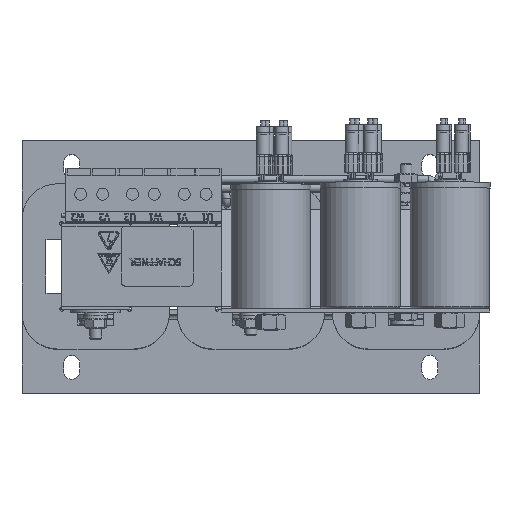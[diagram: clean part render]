
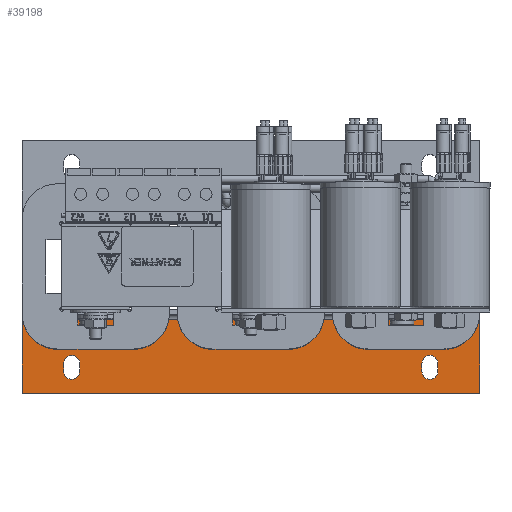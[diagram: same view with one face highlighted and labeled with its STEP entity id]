
A CAD part, top view. The second image highlights one B-rep face of the part: STEP entity #39198.
In plain terms, the highlighted planar face has unit normal (0, 0, 1).
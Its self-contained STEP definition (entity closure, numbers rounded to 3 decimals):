
#1292=LINE('',#58739,#4658);
#1294=LINE('',#58747,#4660);
#1303=LINE('',#58773,#4669);
#1304=LINE('',#58775,#4670);
#1305=LINE('',#58780,#4671);
#1306=LINE('',#58783,#4672);
#1307=LINE('',#58788,#4673);
#1308=LINE('',#58791,#4674);
#4658=VECTOR('',#46807,37.);
#4660=VECTOR('',#46815,37.);
#4669=VECTOR('',#46838,230.);
#4670=VECTOR('',#46841,230.);
#4671=VECTOR('',#46844,4.);
#4672=VECTOR('',#46847,4.);
#4673=VECTOR('',#46850,4.);
#4674=VECTOR('',#46853,4.);
#7903=PLANE('',#41671);
#9093=FACE_BOUND('',#12430,.T.);
#9094=FACE_BOUND('',#12431,.T.);
#10081=FACE_OUTER_BOUND('',#12429,.T.);
#12429=EDGE_LOOP('',(#27549,#27550,#27551,#27552));
#12430=EDGE_LOOP('',(#27553,#27554,#27555,#27556));
#12431=EDGE_LOOP('',(#27557,#27558,#27559,#27560));
#14906=CIRCLE('',#41672,4.);
#14907=CIRCLE('',#41673,4.);
#14908=CIRCLE('',#41674,4.);
#14909=CIRCLE('',#41675,4.);
#16959=VERTEX_POINT('',#58736);
#16960=VERTEX_POINT('',#58738);
#16962=VERTEX_POINT('',#58744);
#16963=VERTEX_POINT('',#58746);
#16974=VERTEX_POINT('',#58776);
#16975=VERTEX_POINT('',#58777);
#16976=VERTEX_POINT('',#58779);
#16977=VERTEX_POINT('',#58781);
#16978=VERTEX_POINT('',#58784);
#16979=VERTEX_POINT('',#58785);
#16980=VERTEX_POINT('',#58787);
#16981=VERTEX_POINT('',#58789);
#21007=EDGE_CURVE('',#16959,#16960,#1292,.T.);
#21011=EDGE_CURVE('',#16963,#16962,#1294,.T.);
#21025=EDGE_CURVE('',#16959,#16963,#1303,.T.);
#21026=EDGE_CURVE('',#16962,#16960,#1304,.T.);
#21027=EDGE_CURVE('',#16974,#16975,#14906,.T.);
#21028=EDGE_CURVE('',#16975,#16976,#1305,.T.);
#21029=EDGE_CURVE('',#16976,#16977,#14907,.T.);
#21030=EDGE_CURVE('',#16977,#16974,#1306,.T.);
#21031=EDGE_CURVE('',#16978,#16979,#14908,.T.);
#21032=EDGE_CURVE('',#16979,#16980,#1307,.T.);
#21033=EDGE_CURVE('',#16980,#16981,#14909,.T.);
#21034=EDGE_CURVE('',#16981,#16978,#1308,.T.);
#27549=ORIENTED_EDGE('',*,*,#21026,.T.);
#27550=ORIENTED_EDGE('',*,*,#21007,.F.);
#27551=ORIENTED_EDGE('',*,*,#21025,.T.);
#27552=ORIENTED_EDGE('',*,*,#21011,.T.);
#27553=ORIENTED_EDGE('',*,*,#21027,.T.);
#27554=ORIENTED_EDGE('',*,*,#21028,.T.);
#27555=ORIENTED_EDGE('',*,*,#21029,.T.);
#27556=ORIENTED_EDGE('',*,*,#21030,.T.);
#27557=ORIENTED_EDGE('',*,*,#21031,.T.);
#27558=ORIENTED_EDGE('',*,*,#21032,.T.);
#27559=ORIENTED_EDGE('',*,*,#21033,.T.);
#27560=ORIENTED_EDGE('',*,*,#21034,.T.);
#39198=ADVANCED_FACE('',(#10081,#9093,#9094),#7903,.T.);
#41671=AXIS2_PLACEMENT_3D('',#58774,#46839,#46840);
#41672=AXIS2_PLACEMENT_3D('',#58778,#46842,#46843);
#41673=AXIS2_PLACEMENT_3D('',#58782,#46845,#46846);
#41674=AXIS2_PLACEMENT_3D('',#58786,#46848,#46849);
#41675=AXIS2_PLACEMENT_3D('',#58790,#46851,#46852);
#46807=DIRECTION('',(0.,1.,0.));
#46815=DIRECTION('',(0.,1.,0.));
#46838=DIRECTION('',(1.,0.,0.));
#46839=DIRECTION('center_axis',(0.,0.,1.));
#46840=DIRECTION('ref_axis',(1.,0.,0.));
#46841=DIRECTION('',(-1.,0.,0.));
#46842=DIRECTION('center_axis',(0.,0.,-1.));
#46843=DIRECTION('ref_axis',(1.,0.,0.));
#46844=DIRECTION('',(0.,-1.,0.));
#46845=DIRECTION('center_axis',(0.,0.,-1.));
#46846=DIRECTION('ref_axis',(-1.,0.,0.));
#46847=DIRECTION('',(0.,1.,0.));
#46848=DIRECTION('center_axis',(0.,0.,-1.));
#46849=DIRECTION('ref_axis',(-1.,0.,0.));
#46850=DIRECTION('',(0.,-1.,0.));
#46851=DIRECTION('center_axis',(0.,0.,-1.));
#46852=DIRECTION('ref_axis',(1.,0.,0.));
#46853=DIRECTION('',(0.,1.,0.));
#58736=CARTESIAN_POINT('',(-45.201,-51.199,-7.5));
#58738=CARTESIAN_POINT('',(-45.201,-14.199,-7.5));
#58739=CARTESIAN_POINT('',(-45.201,-51.199,-7.5));
#58744=CARTESIAN_POINT('',(184.799,-14.199,-7.5));
#58746=CARTESIAN_POINT('',(184.799,-51.199,-7.5));
#58747=CARTESIAN_POINT('',(184.799,-51.199,-7.5));
#58773=CARTESIAN_POINT('',(-45.201,-51.199,-7.5));
#58774=CARTESIAN_POINT('Origin',(-45.201,-51.199,-7.5));
#58775=CARTESIAN_POINT('',(184.799,-14.199,-7.5));
#58776=CARTESIAN_POINT('',(155.799,-36.199,-7.5));
#58777=CARTESIAN_POINT('',(163.799,-36.199,-7.5));
#58778=CARTESIAN_POINT('Origin',(159.799,-36.199,-7.5));
#58779=CARTESIAN_POINT('',(163.799,-40.199,-7.5));
#58780=CARTESIAN_POINT('',(163.799,-36.199,-7.5));
#58781=CARTESIAN_POINT('',(155.799,-40.199,-7.5));
#58782=CARTESIAN_POINT('Origin',(159.799,-40.199,-7.5));
#58783=CARTESIAN_POINT('',(155.799,-40.199,-7.5));
#58784=CARTESIAN_POINT('',(-24.201,-36.199,-7.5));
#58785=CARTESIAN_POINT('',(-16.201,-36.199,-7.5));
#58786=CARTESIAN_POINT('Origin',(-20.201,-36.199,-7.5));
#58787=CARTESIAN_POINT('',(-16.201,-40.199,-7.5));
#58788=CARTESIAN_POINT('',(-16.201,-36.199,-7.5));
#58789=CARTESIAN_POINT('',(-24.201,-40.199,-7.5));
#58790=CARTESIAN_POINT('Origin',(-20.201,-40.199,-7.5));
#58791=CARTESIAN_POINT('',(-24.201,-40.199,-7.5));
